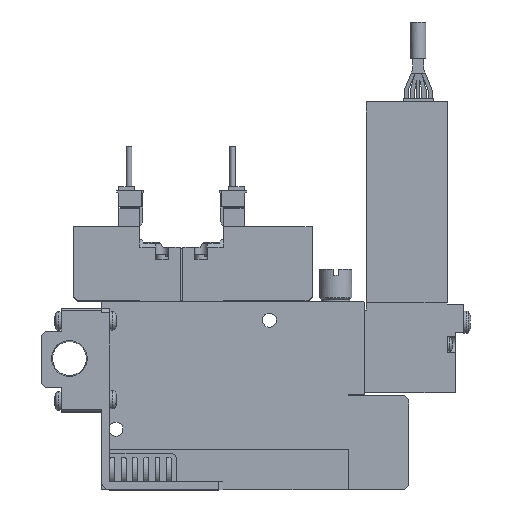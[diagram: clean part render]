
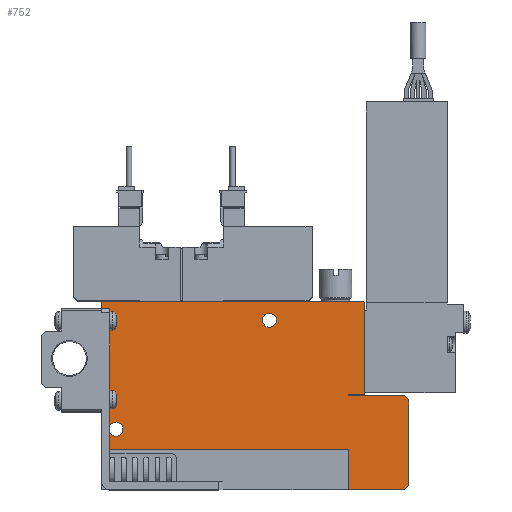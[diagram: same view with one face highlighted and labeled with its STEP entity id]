
A CAD part, top view. The second image highlights one B-rep face of the part: STEP entity #752.
In plain terms, the highlighted planar face has unit normal (0, 0, 1).
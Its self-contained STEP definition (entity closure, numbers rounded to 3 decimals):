
#752=ADVANCED_FACE('',(#1847,#1848,#1849),#1850,.F.);
#1847=FACE_OUTER_BOUND('',#3181,.T.);
#1848=FACE_BOUND('',#3182,.T.);
#1849=FACE_BOUND('',#3183,.T.);
#1850=PLANE('',#3184);
#3181=EDGE_LOOP('',(#7121,#7122,#7123,#7124,#7125,#7126,#7127,#7128,#7129,#7130,#7131,#7132,#7133,#7134));
#3182=EDGE_LOOP('',(#7135));
#3183=EDGE_LOOP('',(#7136));
#3184=AXIS2_PLACEMENT_3D('',#7137,#7138,#7139);
#7121=ORIENTED_EDGE('',*,*,#9597,.T.);
#7122=ORIENTED_EDGE('',*,*,#9770,.F.);
#7123=ORIENTED_EDGE('',*,*,#9771,.F.);
#7124=ORIENTED_EDGE('',*,*,#9440,.T.);
#7125=ORIENTED_EDGE('',*,*,#9547,.T.);
#7126=ORIENTED_EDGE('',*,*,#9772,.T.);
#7127=ORIENTED_EDGE('',*,*,#9717,.T.);
#7128=ORIENTED_EDGE('',*,*,#9714,.T.);
#7129=ORIENTED_EDGE('',*,*,#9720,.T.);
#7130=ORIENTED_EDGE('',*,*,#9669,.T.);
#7131=ORIENTED_EDGE('',*,*,#9768,.T.);
#7132=ORIENTED_EDGE('',*,*,#9773,.T.);
#7133=ORIENTED_EDGE('',*,*,#9587,.T.);
#7134=ORIENTED_EDGE('',*,*,#9769,.T.);
#7135=ORIENTED_EDGE('',*,*,#9751,.F.);
#7136=ORIENTED_EDGE('',*,*,#9549,.F.);
#7137=CARTESIAN_POINT('',(0.0,0.0,5.0));
#7138=DIRECTION('',(0.0,0.0,-1.0));
#7139=DIRECTION('',(0.0,-1.0,0.0));
#9440=EDGE_CURVE('',#11606,#11610,#11612,.T.);
#9547=EDGE_CURVE('',#11610,#11811,#11813,.T.);
#9549=EDGE_CURVE('',#11816,#11816,#11817,.T.);
#9587=EDGE_CURVE('',#11888,#11886,#11889,.T.);
#9597=EDGE_CURVE('',#11906,#11904,#11907,.T.);
#9669=EDGE_CURVE('',#12032,#12030,#12033,.T.);
#9714=EDGE_CURVE('',#12102,#12100,#12103,.T.);
#9717=EDGE_CURVE('',#12107,#12102,#12108,.T.);
#9720=EDGE_CURVE('',#12100,#12032,#12111,.T.);
#9751=EDGE_CURVE('',#12156,#12156,#12157,.T.);
#9768=EDGE_CURVE('',#12030,#12179,#12181,.T.);
#9769=EDGE_CURVE('',#11886,#11906,#12182,.T.);
#9770=EDGE_CURVE('',#12183,#11904,#12184,.T.);
#9771=EDGE_CURVE('',#11606,#12183,#12185,.T.);
#9772=EDGE_CURVE('',#11811,#12107,#12186,.T.);
#9773=EDGE_CURVE('',#12179,#11888,#12187,.T.);
#11606=VERTEX_POINT('',#15167);
#11610=VERTEX_POINT('',#15173);
#11612=LINE('',#15176,#15177);
#11811=VERTEX_POINT('',#15523);
#11813=LINE('',#15526,#15527);
#11816=VERTEX_POINT('',#15530);
#11817=CIRCLE('',#15531,1.75);
#11886=VERTEX_POINT('',#15655);
#11888=VERTEX_POINT('',#15658);
#11889=LINE('',#15659,#15660);
#11904=VERTEX_POINT('',#15682);
#11906=VERTEX_POINT('',#15685);
#11907=LINE('',#15686,#15687);
#12030=VERTEX_POINT('',#15908);
#12032=VERTEX_POINT('',#15911);
#12033=LINE('',#15912,#15913);
#12100=VERTEX_POINT('',#16048);
#12102=VERTEX_POINT('',#16051);
#12103=LINE('',#16052,#16053);
#12107=VERTEX_POINT('',#16059);
#12108=LINE('',#16060,#16061);
#12111=LINE('',#16066,#16067);
#12156=VERTEX_POINT('',#16144);
#12157=CIRCLE('',#16145,1.75);
#12179=VERTEX_POINT('',#16179);
#12181=LINE('',#16182,#16183);
#12182=LINE('',#16184,#16185);
#12183=VERTEX_POINT('',#16186);
#12184=LINE('',#16187,#16188);
#12185=LINE('',#16189,#16190);
#12186=LINE('',#16191,#16192);
#12187=LINE('',#16193,#16194);
#15167=CARTESIAN_POINT('',(61.1,0.0,5.0));
#15173=CARTESIAN_POINT('',(75.0,0.0,5.0));
#15176=CARTESIAN_POINT('',(0.0,0.0,5.0));
#15177=VECTOR('',#18521,1.0);
#15523=CARTESIAN_POINT('',(76.0,1.0,5.0));
#15526=CARTESIAN_POINT('',(75.0,0.0,5.0));
#15527=VECTOR('',#18672,1.0);
#15530=CARTESIAN_POINT('',(43.25,42.0,5.0));
#15531=AXIS2_PLACEMENT_3D('',#18676,#18677,#18678);
#15655=CARTESIAN_POINT('',(0.2,46.6,5.0));
#15658=CARTESIAN_POINT('',(64.8,46.6,5.0));
#15659=CARTESIAN_POINT('',(64.8,46.6,5.0));
#15660=VECTOR('',#18727,1.0);
#15682=CARTESIAN_POINT('',(0.0,10.1,5.0));
#15685=CARTESIAN_POINT('',(0.0,46.4,5.0));
#15686=CARTESIAN_POINT('',(0.0,46.4,5.0));
#15687=VECTOR('',#18739,1.0);
#15908=CARTESIAN_POINT('',(65.0,23.5,5.0));
#15911=CARTESIAN_POINT('',(61.0,23.5,5.0));
#15912=CARTESIAN_POINT('',(61.0,23.5,5.0));
#15913=VECTOR('',#18817,1.0);
#16048=CARTESIAN_POINT('',(61.0,23.25,5.0));
#16051=CARTESIAN_POINT('',(75.0,23.25,5.0));
#16052=CARTESIAN_POINT('',(75.0,23.25,5.0));
#16053=VECTOR('',#18878,1.0);
#16059=CARTESIAN_POINT('',(76.0,22.25,5.0));
#16060=CARTESIAN_POINT('',(76.0,22.25,5.0));
#16061=VECTOR('',#18881,1.0);
#16066=CARTESIAN_POINT('',(61.0,23.25,5.0));
#16067=VECTOR('',#18884,1.0);
#16144=CARTESIAN_POINT('',(5.25,15.0,5.0));
#16145=AXIS2_PLACEMENT_3D('',#18926,#18927,#18928);
#16179=CARTESIAN_POINT('',(65.0,46.4,5.0));
#16182=CARTESIAN_POINT('',(65.0,23.5,5.0));
#16183=VECTOR('',#18951,1.0);
#16184=CARTESIAN_POINT('',(0.2,46.6,5.0));
#16185=VECTOR('',#18952,1.0);
#16186=CARTESIAN_POINT('',(61.1,10.1,5.0));
#16187=CARTESIAN_POINT('',(61.1,10.1,5.0));
#16188=VECTOR('',#18953,1.0);
#16189=CARTESIAN_POINT('',(61.1,0.0,5.0));
#16190=VECTOR('',#18954,1.0);
#16191=CARTESIAN_POINT('',(76.0,1.0,5.0));
#16192=VECTOR('',#18955,1.0);
#16193=CARTESIAN_POINT('',(65.0,46.4,5.0));
#16194=VECTOR('',#18956,1.0);
#18521=DIRECTION('',(1.0,0.0,0.0));
#18672=DIRECTION('',(0.707,0.707,0.0));
#18676=CARTESIAN_POINT('',(41.5,42.0,5.0));
#18677=DIRECTION('',(0.0,0.0,1.0));
#18678=DIRECTION('',(1.0,0.0,0.0));
#18727=DIRECTION('',(-1.0,0.0,0.0));
#18739=DIRECTION('',(0.0,-1.0,0.0));
#18817=DIRECTION('',(1.0,0.,0.0));
#18878=DIRECTION('',(-1.0,0.0,0.0));
#18881=DIRECTION('',(-0.707,0.707,0.0));
#18884=DIRECTION('',(0.0,1.0,0.0));
#18926=CARTESIAN_POINT('',(3.5,15.0,5.0));
#18927=DIRECTION('',(0.0,0.0,1.0));
#18928=DIRECTION('',(1.0,0.0,0.0));
#18951=DIRECTION('',(0.0,1.0,0.0));
#18952=DIRECTION('',(-0.707,-0.707,0.0));
#18953=DIRECTION('',(-1.0,0.0,0.0));
#18954=DIRECTION('',(0.0,1.0,0.0));
#18955=DIRECTION('',(0.0,1.0,0.0));
#18956=DIRECTION('',(-0.707,0.707,0.0));
